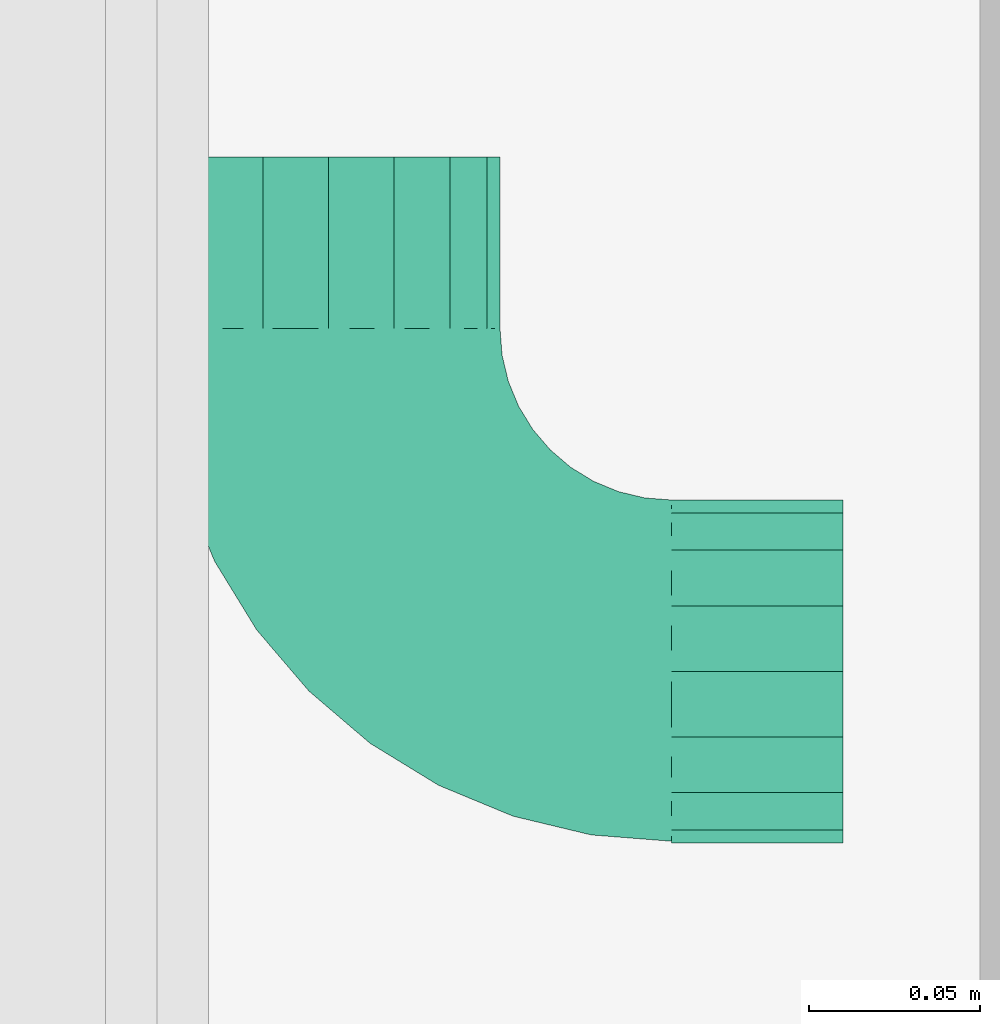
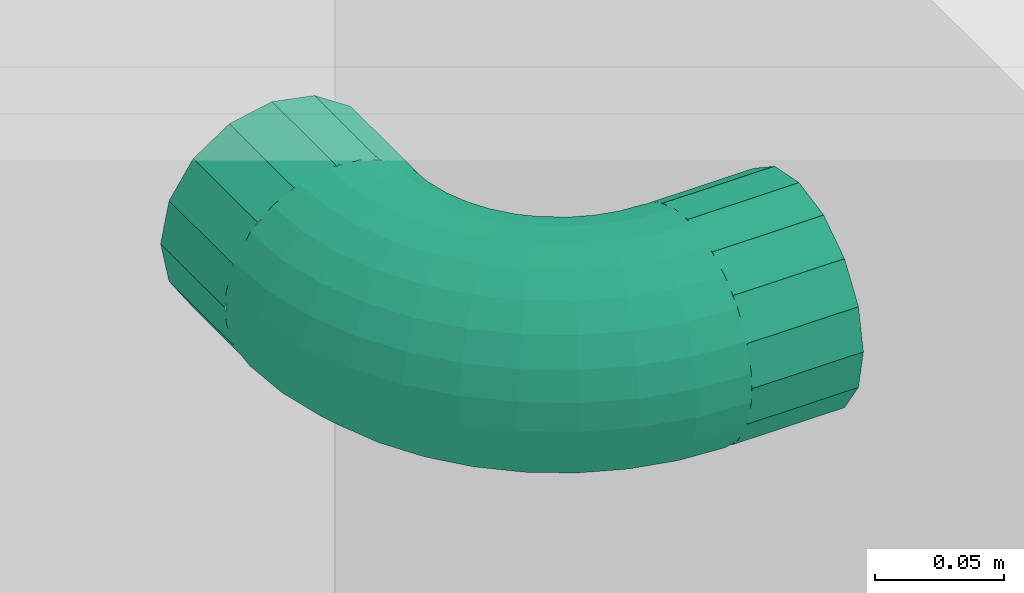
# One storey, part 162 of 169: 1 flow fitting.
"""IFC2X3 building model written with IfcOpenShell, lengths in metres."""

from ifc_helpers import new_model, entity, si_unit, converted_unit, derived_unit, money_unit, direction, frame, origin_with_axes, place, context, subcontext, project, spatial, open_shell, surface_model, material, type_object, element, save


model = new_model("IFC2X3")

# Units and contexts
model_context = context("Model", 3, precision=1e-05, world=origin_with_axes(), true_north=direction((0.0, 1.0)))
body_context = subcontext(model_context, "Body", "Model", "MODEL_VIEW", scale=1.0)
ifc_project = project(units=[si_unit("LENGTHUNIT", "METRE"), si_unit("AREAUNIT", "SQUARE_METRE"), si_unit("VOLUMEUNIT", "CUBIC_METRE"), si_unit("ABSORBEDDOSEUNIT", "GRAY"), si_unit("AMOUNTOFSUBSTANCEUNIT", "MOLE"), si_unit("DOSEEQUIVALENTUNIT", "SIEVERT"), si_unit("ELECTRICCAPACITANCEUNIT", "FARAD"), si_unit("ELECTRICCHARGEUNIT", "COULOMB"), si_unit("ELECTRICCONDUCTANCEUNIT", "SIEMENS"), si_unit("ELECTRICCURRENTUNIT", "AMPERE"), si_unit("ELECTRICRESISTANCEUNIT", "OHM"), si_unit("ELECTRICVOLTAGEUNIT", "VOLT"), si_unit("ENERGYUNIT", "JOULE"), si_unit("FORCEUNIT", "NEWTON"), si_unit("FREQUENCYUNIT", "HERTZ"), si_unit("ILLUMINANCEUNIT", "LUX"), si_unit("INDUCTANCEUNIT", "HENRY"), si_unit("LUMINOUSFLUXUNIT", "LUMEN"), si_unit("LUMINOUSINTENSITYUNIT", "CANDELA"), si_unit("MAGNETICFLUXDENSITYUNIT", "TESLA"), si_unit("MAGNETICFLUXUNIT", "WEBER"), si_unit("MASSUNIT", "GRAM"), converted_unit("PLANEANGLEUNIT", "degree", entity("IfcReal", 0.0174532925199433), si_unit("PLANEANGLEUNIT", "RADIAN"), dimensions=[0, 0, 0, 0, 0, 0, 0]), si_unit("POWERUNIT", "WATT"), si_unit("PRESSUREUNIT", "PASCAL"), si_unit("RADIOACTIVITYUNIT", "BECQUEREL"), si_unit("SOLIDANGLEUNIT", "STERADIAN"), si_unit("THERMODYNAMICTEMPERATUREUNIT", "KELVIN"), si_unit("TIMEUNIT", "SECOND"), derived_unit("ACCELERATIONUNIT", [(si_unit("LENGTHUNIT", "METRE"), 1), (si_unit("TIMEUNIT", "SECOND"), -2)]), derived_unit("ANGULARVELOCITYUNIT", [(converted_unit("PLANEANGLEUNIT", "degree", entity("IfcReal", 0.0174532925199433), si_unit("PLANEANGLEUNIT", "RADIAN"), dimensions=[0, 0, 0, 0, 0, 0, 0]), 1), (si_unit("TIMEUNIT", "SECOND"), -1)]), derived_unit("CURVATUREUNIT", [(converted_unit("PLANEANGLEUNIT", "degree", entity("IfcReal", 0.0174532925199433), si_unit("PLANEANGLEUNIT", "RADIAN"), dimensions=[0, 0, 0, 0, 0, 0, 0]), 1), (si_unit("LENGTHUNIT", "METRE"), -1)]), derived_unit("DYNAMICVISCOSITYUNIT", [(si_unit("PRESSUREUNIT", "PASCAL"), 1), (si_unit("TIMEUNIT", "SECOND"), 1)]), derived_unit("HEATFLUXDENSITYUNIT", [(si_unit("POWERUNIT", "WATT"), 1), (si_unit("LENGTHUNIT", "METRE"), -2)]), derived_unit("HEATINGVALUEUNIT", [(si_unit("ENERGYUNIT", "JOULE"), 1), (si_unit("MASSUNIT", "GRAM"), -1)]), derived_unit("INTEGERCOUNTRATEUNIT", [(si_unit("TIMEUNIT", "SECOND"), -1)]), derived_unit("IONCONCENTRATIONUNIT", [(si_unit("MASSUNIT", "GRAM"), 1), (si_unit("VOLUMEUNIT", "CUBIC_METRE"), -1)]), derived_unit("ISOTHERMALMOISTURECAPACITYUNIT", [(si_unit("VOLUMEUNIT", "CUBIC_METRE"), 1), (si_unit("MASSUNIT", "GRAM"), -1)]), derived_unit("KINEMATICVISCOSITYUNIT", [(si_unit("AREAUNIT", "SQUARE_METRE"), 1), (si_unit("TIMEUNIT", "SECOND"), -1)]), derived_unit("LINEARFORCEUNIT", [(si_unit("FORCEUNIT", "NEWTON"), 1), (si_unit("LENGTHUNIT", "METRE"), -1)]), derived_unit("LINEARMOMENTUNIT", [(si_unit("FORCEUNIT", "NEWTON"), 1), (si_unit("LENGTHUNIT", "METRE"), -1)]), derived_unit("LINEARSTIFFNESSUNIT", [(si_unit("FORCEUNIT", "NEWTON"), 1), (si_unit("LENGTHUNIT", "METRE"), -1)]), derived_unit("LINEARVELOCITYUNIT", [(si_unit("LENGTHUNIT", "METRE"), 1), (si_unit("TIMEUNIT", "SECOND"), -1)]), derived_unit("LUMINOUSINTENSITYDISTRIBUTIONUNIT", [(si_unit("LUMINOUSINTENSITYUNIT", "CANDELA"), 1), (si_unit("LUMINOUSFLUXUNIT", "LUMEN"), -1)]), derived_unit("MASSDENSITYUNIT", [(si_unit("MASSUNIT", "GRAM"), 1), (si_unit("VOLUMEUNIT", "CUBIC_METRE"), -1)]), derived_unit("MASSFLOWRATEUNIT", [(si_unit("MASSUNIT", "GRAM"), 1), (si_unit("TIMEUNIT", "SECOND"), -1)]), derived_unit("MASSPERLENGTHUNIT", [(si_unit("MASSUNIT", "GRAM"), 1), (si_unit("LENGTHUNIT", "METRE"), -1)]), derived_unit("MODULUSOFELASTICITYUNIT", [(si_unit("FORCEUNIT", "NEWTON"), 1), (si_unit("AREAUNIT", "SQUARE_METRE"), -1)]), derived_unit("MODULUSOFLINEARSUBGRADEREACTIONUNIT", [(si_unit("FORCEUNIT", "NEWTON"), 1), (si_unit("LENGTHUNIT", "METRE"), -2)]), derived_unit("MODULUSOFROTATIONALSUBGRADEREACTIONUNIT", [(si_unit("FORCEUNIT", "NEWTON"), 1), (si_unit("LENGTHUNIT", "METRE"), 1)]), derived_unit("MODULUSOFSUBGRADEREACTIONUNIT", [(si_unit("FORCEUNIT", "NEWTON"), 1), (si_unit("VOLUMEUNIT", "CUBIC_METRE"), -1)]), derived_unit("MOISTUREDIFFUSIVITYUNIT", [(si_unit("VOLUMEUNIT", "CUBIC_METRE"), 1), (si_unit("TIMEUNIT", "SECOND"), -1)]), derived_unit("MOLECULARWEIGHTUNIT", [(si_unit("MASSUNIT", "GRAM"), 1), (si_unit("AMOUNTOFSUBSTANCEUNIT", "MOLE"), -1)]), derived_unit("PLANARFORCEUNIT", [(si_unit("FORCEUNIT", "NEWTON"), 1), (si_unit("LENGTHUNIT", "METRE"), -2)]), derived_unit("ROTATIONALFREQUENCYUNIT", [(si_unit("TIMEUNIT", "SECOND"), -1)]), derived_unit("ROTATIONALMASSUNIT", [(si_unit("MASSUNIT", "GRAM"), 1), (si_unit("LENGTHUNIT", "METRE"), 2)]), derived_unit("ROTATIONALSTIFFNESSUNIT", [(si_unit("FORCEUNIT", "NEWTON"), 1), (si_unit("LENGTHUNIT", "METRE"), 1), (converted_unit("PLANEANGLEUNIT", "degree", entity("IfcReal", 0.0174532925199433), si_unit("PLANEANGLEUNIT", "RADIAN"), dimensions=[0, 0, 0, 0, 0, 0, 0]), -1)]), derived_unit("SECTIONAREAINTEGRALUNIT", [(si_unit("LENGTHUNIT", "METRE"), 5)]), derived_unit("SECTIONMODULUSUNIT", [(si_unit("LENGTHUNIT", "METRE"), 3)]), derived_unit("SHEARMODULUSUNIT", [(si_unit("FORCEUNIT", "NEWTON"), 1), (si_unit("AREAUNIT", "SQUARE_METRE"), -1)]), derived_unit("SOUNDPOWERUNIT", [(si_unit("ENERGYUNIT", "JOULE"), 1), (si_unit("TIMEUNIT", "SECOND"), -1)]), derived_unit("SPECIFICHEATCAPACITYUNIT", [(si_unit("FORCEUNIT", "NEWTON"), 1), (si_unit("MASSUNIT", "GRAM"), -1), (si_unit("THERMODYNAMICTEMPERATUREUNIT", "KELVIN"), -1)]), derived_unit("TEMPERATUREGRADIENTUNIT", [(si_unit("THERMODYNAMICTEMPERATUREUNIT", "KELVIN"), 1), (si_unit("LENGTHUNIT", "METRE"), -1)]), derived_unit("THERMALADMITTANCEUNIT", [(si_unit("POWERUNIT", "WATT"), 1), (si_unit("AREAUNIT", "SQUARE_METRE"), -1), (si_unit("THERMODYNAMICTEMPERATUREUNIT", "KELVIN"), -1)]), derived_unit("THERMALCONDUCTANCEUNIT", [(si_unit("POWERUNIT", "WATT"), 1), (si_unit("LENGTHUNIT", "METRE"), -1), (si_unit("THERMODYNAMICTEMPERATUREUNIT", "KELVIN"), -1)]), derived_unit("THERMALEXPANSIONCOEFFICIENTUNIT", [(si_unit("THERMODYNAMICTEMPERATUREUNIT", "KELVIN"), -1)]), derived_unit("THERMALRESISTANCEUNIT", [(si_unit("AREAUNIT", "SQUARE_METRE"), 1), (si_unit("POWERUNIT", "WATT"), -1)]), derived_unit("THERMALTRANSMITTANCEUNIT", [(si_unit("POWERUNIT", "WATT"), 1), (si_unit("AREAUNIT", "SQUARE_METRE"), -1), (si_unit("THERMODYNAMICTEMPERATUREUNIT", "KELVIN"), -1)]), derived_unit("TORQUEUNIT", [(si_unit("FORCEUNIT", "NEWTON"), 1), (si_unit("LENGTHUNIT", "METRE"), 1)]), derived_unit("VAPORPERMEABILITYUNIT", [(si_unit("MASSUNIT", "GRAM"), 1), (si_unit("TIMEUNIT", "SECOND"), -1)]), derived_unit("VOLUMETRICFLOWRATEUNIT", [(si_unit("VOLUMEUNIT", "CUBIC_METRE"), 1), (si_unit("TIMEUNIT", "SECOND"), -1)]), derived_unit("WARPINGCONSTANTUNIT", [(si_unit("LENGTHUNIT", "METRE"), 6)]), derived_unit("WARPINGMOMENTUNIT", [(si_unit("FORCEUNIT", "NEWTON"), 1), (si_unit("LENGTHUNIT", "METRE"), 2)]), money_unit("GBP")], contexts=[model_context])

# Site, building, storey, space
site_placement = place(None, origin_with_axes())
site = spatial("IfcSite", under=ifc_project, at=site_placement, Name="Site", CompositionType="ELEMENT")
building_placement = place(site_placement, origin_with_axes())
building = spatial("IfcBuilding", under=site, at=building_placement, Name="Building01", CompositionType="ELEMENT")
storey_placement = place(building_placement, frame((0.0, 0.0, 5.15), z_axis=(0.0, 0.0, 1.0), x_axis=(1.0, 0.0, 0.0)))
storey = spatial("IfcBuildingStorey", under=building, at=storey_placement, Name="1F", CompositionType="ELEMENT", Elevation=5.15)
space_placement = place(storey_placement, frame((18.239976, 7.549915, 9.86), z_axis=(0.0, 0.0, 1.0), x_axis=(0.0, 1.0, 0.0)))
space = spatial("IfcSpace", under=storey, at=space_placement, Name="corridor (protected)", CompositionType="ELEMENT", InteriorOrExteriorSpace="NOTDEFINED")

# Flow fitting
ifc_material = material(Name="M_BSUK_Ventilation")
duct_fitting_type = type_object("IfcDuctFittingType", Name="M-Roundelbow-DefaultRound", PredefinedType="BEND")
placement = place(building_placement, origin_with_axes())
flow_fitting_placement = place(placement, frame((18.15, 8.069939, 17.28), z_axis=(0.0, -1.0, 0.0), x_axis=(-1.0, 0.0, 0.0)))
element("IfcFlowFitting", 1, at=flow_fitting_placement, inside=space, type_object=duct_fitting_type, material=ifc_material, Name="M-Roundelbow-DefaultRound", ObjectType="M-Roundelbow-DefaultRound", context=body_context, shape_type="SurfaceModel", body=[
    surface_model("IfcShellBasedSurfaceModel", [(0.008112, -0.01349, -0.048784), (0.0, -0.01349, -0.048146), (0.0, 0.0, -0.05), (0.007822, 0.0, -0.050616), (0.016024, -0.01349, -0.050684), (0.015451, 0.0, -0.052447), (0.023541, -0.01349, -0.053798), (0.0227, 0.0, -0.05545), (0.030479, -0.01349, -0.058049), (0.029389, 0.0, -0.059549), (0.036666, -0.01349, -0.063334), (0.035355, 0.0, -0.064645), (0.041951, -0.01349, -0.069521), (0.040451, 0.0, -0.070611), (0.046202, -0.01349, -0.076459), (0.04455, 0.0, -0.0773), (0.049316, -0.01349, -0.083976), (0.047553, 0.0, -0.084549), (0.051216, -0.01349, -0.091888), (0.049384, 0.0, -0.092178), (0.051854, -0.01349, -0.1), (0.05, 0.0, -0.1), (0.00896, -0.025979, -0.043426), (0.0, -0.025979, -0.042721), (0.0177, -0.025979, -0.045524), (0.026004, -0.025979, -0.048964), (0.033668, -0.025979, -0.05366), (0.040502, -0.025979, -0.059498), (0.04634, -0.025979, -0.066332), (0.051036, -0.025979, -0.073996), (0.054476, -0.025979, -0.0823), (0.056574, -0.025979, -0.09104), (0.057279, -0.025979, -0.1), (0.010305, -0.036542, -0.034939), (0.0, -0.036542, -0.034128), (0.020356, -0.036542, -0.037352), (0.029905, -0.036542, -0.041307), (0.038719, -0.036542, -0.046708), (0.046579, -0.036542, -0.053421), (0.053292, -0.036542, -0.061281), (0.058693, -0.036542, -0.070095), (0.062648, -0.036542, -0.079644), (0.065061, -0.036542, -0.089695), (0.065872, -0.036542, -0.1), (0.012045, -0.044394, -0.023951), (0.0, -0.044394, -0.023003), (0.023793, -0.044394, -0.026772), (0.034956, -0.044394, -0.031395), (0.045258, -0.044394, -0.037708), (0.054445, -0.044394, -0.045555), (0.062292, -0.044394, -0.054742), (0.068605, -0.044394, -0.065044), (0.073228, -0.044394, -0.076207), (0.076049, -0.044394, -0.087955), (0.076997, -0.044394, -0.1), (0.014052, -0.048954, -0.011279), (0.0, -0.048954, -0.010173), (0.027758, -0.048954, -0.014569), (0.040781, -0.048954, -0.019963), (0.052799, -0.048954, -0.027328), (0.063517, -0.048954, -0.036483), (0.072672, -0.048954, -0.047201), (0.080037, -0.048954, -0.059219), (0.085431, -0.048954, -0.072242), (0.088721, -0.048954, -0.085948), (0.089827, -0.048954, -0.1), (0.016177, -0.049883, 0.002139), (0.0, -0.049883, 0.003412), (0.031956, -0.049883, -0.001649), (0.046948, -0.049883, -0.007859), (0.060784, -0.049883, -0.016338), (0.073123, -0.049883, -0.026877), (0.083662, -0.049883, -0.039216), (0.092141, -0.049883, -0.053052), (0.098351, -0.049883, -0.068044), (0.102139, -0.049883, -0.083823), (0.103412, -0.049883, -0.1), (0.018263, -0.047113, 0.015307), (0.0, -0.047113, 0.016744), (0.036076, -0.047113, 0.01103), (0.053001, -0.047113, 0.00402), (0.06862, -0.047113, -0.005552), (0.08255, -0.047113, -0.01745), (0.094448, -0.047113, -0.03138), (0.10402, -0.047113, -0.046999), (0.11103, -0.047113, -0.063924), (0.115307, -0.047113, -0.081737), (0.116744, -0.047113, -0.1), (0.020154, -0.040848, 0.027248), (0.0, -0.040848, 0.028834), (0.039812, -0.040848, 0.022528), (0.058489, -0.040848, 0.014792), (0.075727, -0.040848, 0.004229), (0.091099, -0.040848, -0.008901), (0.104229, -0.040848, -0.024273), (0.114792, -0.040848, -0.041511), (0.122528, -0.040848, -0.060188), (0.127248, -0.040848, -0.079846), (0.128834, -0.040848, -0.1), (0.021711, -0.031554, 0.037077), (0.0, -0.031554, 0.038786), (0.042887, -0.031554, 0.031993), (0.063007, -0.031554, 0.023659), (0.081576, -0.031554, 0.01228), (0.098136, -0.031554, -0.001864), (0.11228, -0.031554, -0.018424), (0.123659, -0.031554, -0.036993), (0.131993, -0.031554, -0.057113), (0.137077, -0.031554, -0.078289), (0.138786, -0.031554, -0.1), (0.022818, -0.01992, 0.044065), (0.0, -0.01992, 0.045861), (0.045073, -0.01992, 0.038722), (0.066219, -0.01992, 0.029963), (0.085735, -0.01992, 0.018004), (0.103139, -0.01992, 0.003139), (0.118004, -0.01992, -0.014265), (0.129963, -0.01992, -0.033781), (0.138722, -0.01992, -0.054927), (0.144065, -0.01992, -0.077182), (0.145861, -0.01992, -0.1), (0.023392, -0.006808, 0.047693), (0.0, -0.006808, 0.049534), (0.046209, -0.006808, 0.042216), (0.067887, -0.006808, 0.033236), (0.087894, -0.006808, 0.020976), (0.105737, -0.006808, 0.005737), (0.120976, -0.006808, -0.012106), (0.133236, -0.006808, -0.032113), (0.142216, -0.006808, -0.053791), (0.147693, -0.006808, -0.076608), (0.149534, -0.006808, -0.1), (0.023392, 0.006808, 0.047693), (0.0, 0.006808, 0.049534), (0.046209, 0.006808, 0.042216), (0.067887, 0.006808, 0.033236), (0.087894, 0.006808, 0.020976), (0.105737, 0.006808, 0.005737), (0.120976, 0.006808, -0.012106), (0.133236, 0.006808, -0.032113), (0.142216, 0.006808, -0.053791), (0.147693, 0.006808, -0.076608), (0.149534, 0.006808, -0.1), (0.022818, 0.01992, 0.044065), (0.0, 0.01992, 0.045861), (0.045073, 0.01992, 0.038722), (0.066219, 0.01992, 0.029963), (0.085735, 0.01992, 0.018004), (0.103139, 0.01992, 0.003139), (0.118004, 0.01992, -0.014265), (0.129963, 0.01992, -0.033781), (0.138722, 0.01992, -0.054927), (0.144065, 0.01992, -0.077182), (0.145861, 0.01992, -0.1), (0.021711, 0.031554, 0.037077), (0.0, 0.031554, 0.038786), (0.042887, 0.031554, 0.031993), (0.063007, 0.031554, 0.023659), (0.081576, 0.031554, 0.01228), (0.098136, 0.031554, -0.001864), (0.11228, 0.031554, -0.018424), (0.123659, 0.031554, -0.036993), (0.131993, 0.031554, -0.057113), (0.137077, 0.031554, -0.078289), (0.138786, 0.031554, -0.1), (0.020154, 0.040848, 0.027248), (0.0, 0.040848, 0.028834), (0.039812, 0.040848, 0.022528), (0.058489, 0.040848, 0.014792), (0.075727, 0.040848, 0.004229), (0.091099, 0.040848, -0.008901), (0.104229, 0.040848, -0.024273), (0.114792, 0.040848, -0.041511), (0.122528, 0.040848, -0.060188), (0.127248, 0.040848, -0.079846), (0.128834, 0.040848, -0.1), (0.018263, 0.047113, 0.015307), (0.0, 0.047113, 0.016744), (0.036076, 0.047113, 0.01103), (0.053001, 0.047113, 0.00402), (0.06862, 0.047113, -0.005552), (0.08255, 0.047113, -0.01745), (0.094448, 0.047113, -0.03138), (0.10402, 0.047113, -0.046999), (0.11103, 0.047113, -0.063924), (0.115307, 0.047113, -0.081737), (0.116744, 0.047113, -0.1), (0.016177, 0.049883, 0.002139), (0.0, 0.049883, 0.003412), (0.031956, 0.049883, -0.001649), (0.046948, 0.049883, -0.007859), (0.060784, 0.049883, -0.016338), (0.073123, 0.049883, -0.026877), (0.083662, 0.049883, -0.039216), (0.092141, 0.049883, -0.053052), (0.098351, 0.049883, -0.068044), (0.102139, 0.049883, -0.083823), (0.103412, 0.049883, -0.1), (0.014052, 0.048954, -0.011279), (0.0, 0.048954, -0.010173), (0.027758, 0.048954, -0.014569), (0.040781, 0.048954, -0.019963), (0.052799, 0.048954, -0.027328), (0.063517, 0.048954, -0.036483), (0.072672, 0.048954, -0.047201), (0.080037, 0.048954, -0.059219), (0.085431, 0.048954, -0.072242), (0.088721, 0.048954, -0.085948), (0.089827, 0.048954, -0.1), (0.012045, 0.044394, -0.023951), (0.0, 0.044394, -0.023003), (0.023793, 0.044394, -0.026772), (0.034956, 0.044394, -0.031395), (0.045258, 0.044394, -0.037708), (0.054445, 0.044394, -0.045555), (0.062292, 0.044394, -0.054742), (0.068605, 0.044394, -0.065044), (0.073228, 0.044394, -0.076207), (0.076049, 0.044394, -0.087955), (0.076997, 0.044394, -0.1), (0.010305, 0.036542, -0.034939), (0.0, 0.036542, -0.034128), (0.020356, 0.036542, -0.037352), (0.029905, 0.036542, -0.041307), (0.038719, 0.036542, -0.046708), (0.046579, 0.036542, -0.053421), (0.053292, 0.036542, -0.061281), (0.058693, 0.036542, -0.070095), (0.062648, 0.036542, -0.079644), (0.065061, 0.036542, -0.089695), (0.065872, 0.036542, -0.1), (0.00896, 0.025979, -0.043426), (0.0, 0.025979, -0.042721), (0.0177, 0.025979, -0.045524), (0.026004, 0.025979, -0.048964), (0.033668, 0.025979, -0.05366), (0.040502, 0.025979, -0.059498), (0.04634, 0.025979, -0.066332), (0.051036, 0.025979, -0.073996), (0.054476, 0.025979, -0.0823), (0.056574, 0.025979, -0.09104), (0.057279, 0.025979, -0.1), (0.008112, 0.01349, -0.048784), (0.0, 0.01349, -0.048146), (0.016024, 0.01349, -0.050684), (0.023541, 0.01349, -0.053798), (0.030479, 0.01349, -0.058049), (0.036666, 0.01349, -0.063334), (0.041951, 0.01349, -0.069521), (0.046202, 0.01349, -0.076459), (0.049316, 0.01349, -0.083976), (0.051216, 0.01349, -0.091888), (0.051854, 0.01349, -0.1), (-0.05, 0.0, -0.05), (0.0, -0.019134, -0.046194), (-0.05, -0.019134, -0.046194), (0.0, -0.035355, -0.035355), (-0.05, -0.035355, -0.035355), (0.0, -0.046194, -0.019134), (-0.05, -0.046194, -0.019134), (0.0, -0.05, 0.0), (-0.05, -0.05, 0.0), (0.0, -0.046194, 0.019134), (-0.05, -0.046194, 0.019134), (0.0, -0.035355, 0.035355), (-0.05, -0.035355, 0.035355), (0.0, -0.019134, 0.046194), (-0.05, -0.019134, 0.046194), (0.0, 0.0, 0.05), (-0.05, 0.0, 0.05), (0.0, 0.019134, 0.046194), (-0.05, 0.019134, 0.046194), (0.0, 0.035355, 0.035355), (-0.05, 0.035355, 0.035355), (0.0, 0.046194, 0.019134), (-0.05, 0.046194, 0.019134), (0.0, 0.05, 0.0), (-0.05, 0.05, 0.0), (0.0, 0.046194, -0.019134), (-0.05, 0.046194, -0.019134), (0.0, 0.035355, -0.035355), (-0.05, 0.035355, -0.035355), (0.0, 0.019134, -0.046194), (-0.05, 0.019134, -0.046194), (0.05, 0.0, -0.15), (0.053806, 0.019134, -0.1), (0.053806, 0.019134, -0.15), (0.064645, 0.035355, -0.1), (0.064645, 0.035355, -0.15), (0.080866, 0.046194, -0.1), (0.080866, 0.046194, -0.15), (0.1, 0.05, -0.1), (0.1, 0.05, -0.15), (0.119134, 0.046194, -0.1), (0.119134, 0.046194, -0.15), (0.135355, 0.035355, -0.1), (0.135355, 0.035355, -0.15), (0.146194, 0.019134, -0.1), (0.146194, 0.019134, -0.15), (0.15, 0.0, -0.1), (0.15, 0.0, -0.15), (0.146194, -0.019134, -0.1), (0.146194, -0.019134, -0.15), (0.135355, -0.035355, -0.1), (0.135355, -0.035355, -0.15), (0.119134, -0.046194, -0.1), (0.119134, -0.046194, -0.15), (0.1, -0.05, -0.1), (0.1, -0.05, -0.15), (0.080866, -0.046194, -0.1), (0.080866, -0.046194, -0.15), (0.064645, -0.035355, -0.1), (0.064645, -0.035355, -0.15), (0.053806, -0.019134, -0.1), (0.053806, -0.019134, -0.15)], [open_shell([[[0, 1, 2, 3]], [[4, 0, 3, 5]], [[6, 4, 5, 7]], [[8, 6, 7, 9]], [[10, 8, 9, 11]], [[12, 10, 11, 13]], [[14, 12, 13, 15]], [[16, 14, 15, 17]], [[18, 16, 17, 19]], [[20, 18, 19, 21]], [[22, 23, 1, 0]], [[24, 22, 0, 4]], [[25, 24, 4, 6]], [[26, 25, 6, 8]], [[27, 26, 8, 10]], [[28, 27, 10, 12]], [[29, 28, 12, 14]], [[30, 29, 14, 16]], [[31, 30, 16, 18]], [[32, 31, 18, 20]], [[33, 34, 23, 22]], [[35, 33, 22, 24]], [[36, 35, 24, 25]], [[37, 36, 25, 26]], [[38, 37, 26, 27]], [[39, 38, 27, 28]], [[40, 39, 28, 29]], [[41, 40, 29, 30]], [[42, 41, 30, 31]], [[43, 42, 31, 32]], [[44, 45, 34, 33]], [[46, 44, 33, 35]], [[47, 46, 35, 36]], [[48, 47, 36, 37]], [[49, 48, 37, 38]], [[50, 49, 38, 39]], [[51, 50, 39, 40]], [[52, 51, 40, 41]], [[53, 52, 41, 42]], [[54, 53, 42, 43]], [[55, 56, 45, 44]], [[57, 55, 44, 46]], [[58, 57, 46, 47]], [[59, 58, 47, 48]], [[60, 59, 48, 49]], [[61, 60, 49, 50]], [[62, 61, 50, 51]], [[63, 62, 51, 52]], [[64, 63, 52, 53]], [[65, 64, 53, 54]], [[66, 67, 56, 55]], [[68, 66, 55, 57]], [[69, 68, 57, 58]], [[70, 69, 58, 59]], [[71, 70, 59, 60]], [[72, 71, 60, 61]], [[73, 72, 61, 62]], [[74, 73, 62, 63]], [[75, 74, 63, 64]], [[76, 75, 64, 65]], [[77, 78, 67, 66]], [[79, 77, 66, 68]], [[80, 79, 68, 69]], [[81, 80, 69, 70]], [[82, 81, 70, 71]], [[83, 82, 71, 72]], [[84, 83, 72, 73]], [[85, 84, 73, 74]], [[86, 85, 74, 75]], [[87, 86, 75, 76]], [[88, 89, 78, 77]], [[90, 88, 77, 79]], [[91, 90, 79, 80]], [[92, 91, 80, 81]], [[93, 92, 81, 82]], [[94, 93, 82, 83]], [[95, 94, 83, 84]], [[96, 95, 84, 85]], [[97, 96, 85, 86]], [[98, 97, 86, 87]], [[99, 100, 89, 88]], [[101, 99, 88, 90]], [[102, 101, 90, 91]], [[103, 102, 91, 92]], [[104, 103, 92, 93]], [[105, 104, 93, 94]], [[106, 105, 94, 95]], [[107, 106, 95, 96]], [[108, 107, 96, 97]], [[109, 108, 97, 98]], [[110, 111, 100, 99]], [[112, 110, 99, 101]], [[113, 112, 101, 102]], [[114, 113, 102, 103]], [[115, 114, 103, 104]], [[116, 115, 104, 105]], [[117, 116, 105, 106]], [[118, 117, 106, 107]], [[119, 118, 107, 108]], [[120, 119, 108, 109]], [[121, 122, 111, 110]], [[123, 121, 110, 112]], [[124, 123, 112, 113]], [[125, 124, 113, 114]], [[126, 125, 114, 115]], [[127, 126, 115, 116]], [[128, 127, 116, 117]], [[129, 128, 117, 118]], [[130, 129, 118, 119]], [[131, 130, 119, 120]], [[132, 133, 122, 121]], [[134, 132, 121, 123]], [[135, 134, 123, 124]], [[136, 135, 124, 125]], [[137, 136, 125, 126]], [[138, 137, 126, 127]], [[139, 138, 127, 128]], [[140, 139, 128, 129]], [[141, 140, 129, 130]], [[142, 141, 130, 131]], [[143, 144, 133, 132]], [[145, 143, 132, 134]], [[146, 145, 134, 135]], [[147, 146, 135, 136]], [[148, 147, 136, 137]], [[149, 148, 137, 138]], [[150, 149, 138, 139]], [[151, 150, 139, 140]], [[152, 151, 140, 141]], [[153, 152, 141, 142]], [[154, 155, 144, 143]], [[156, 154, 143, 145]], [[157, 156, 145, 146]], [[158, 157, 146, 147]], [[159, 158, 147, 148]], [[160, 159, 148, 149]], [[161, 160, 149, 150]], [[162, 161, 150, 151]], [[163, 162, 151, 152]], [[164, 163, 152, 153]], [[165, 166, 155, 154]], [[167, 165, 154, 156]], [[168, 167, 156, 157]], [[169, 168, 157, 158]], [[170, 169, 158, 159]], [[171, 170, 159, 160]], [[172, 171, 160, 161]], [[173, 172, 161, 162]], [[174, 173, 162, 163]], [[175, 174, 163, 164]], [[176, 177, 166, 165]], [[178, 176, 165, 167]], [[179, 178, 167, 168]], [[180, 179, 168, 169]], [[181, 180, 169, 170]], [[182, 181, 170, 171]], [[183, 182, 171, 172]], [[184, 183, 172, 173]], [[185, 184, 173, 174]], [[186, 185, 174, 175]], [[187, 188, 177, 176]], [[189, 187, 176, 178]], [[190, 189, 178, 179]], [[191, 190, 179, 180]], [[192, 191, 180, 181]], [[193, 192, 181, 182]], [[194, 193, 182, 183]], [[195, 194, 183, 184]], [[196, 195, 184, 185]], [[197, 196, 185, 186]], [[198, 199, 188, 187]], [[200, 198, 187, 189]], [[201, 200, 189, 190]], [[202, 201, 190, 191]], [[203, 202, 191, 192]], [[204, 203, 192, 193]], [[205, 204, 193, 194]], [[206, 205, 194, 195]], [[207, 206, 195, 196]], [[208, 207, 196, 197]], [[209, 210, 199, 198]], [[211, 209, 198, 200]], [[212, 211, 200, 201]], [[213, 212, 201, 202]], [[214, 213, 202, 203]], [[215, 214, 203, 204]], [[216, 215, 204, 205]], [[217, 216, 205, 206]], [[218, 217, 206, 207]], [[219, 218, 207, 208]], [[220, 221, 210, 209]], [[222, 220, 209, 211]], [[223, 222, 211, 212]], [[224, 223, 212, 213]], [[225, 224, 213, 214]], [[226, 225, 214, 215]], [[227, 226, 215, 216]], [[228, 227, 216, 217]], [[229, 228, 217, 218]], [[230, 229, 218, 219]], [[231, 232, 221, 220]], [[233, 231, 220, 222]], [[234, 233, 222, 223]], [[235, 234, 223, 224]], [[236, 235, 224, 225]], [[237, 236, 225, 226]], [[238, 237, 226, 227]], [[239, 238, 227, 228]], [[240, 239, 228, 229]], [[241, 240, 229, 230]], [[242, 243, 232, 231]], [[244, 242, 231, 233]], [[245, 244, 233, 234]], [[246, 245, 234, 235]], [[247, 246, 235, 236]], [[248, 247, 236, 237]], [[249, 248, 237, 238]], [[250, 249, 238, 239]], [[251, 250, 239, 240]], [[252, 251, 240, 241]], [[3, 2, 243, 242]], [[5, 3, 242, 244]], [[7, 5, 244, 245]], [[9, 7, 245, 246]], [[11, 9, 246, 247]], [[13, 11, 247, 248]], [[15, 13, 248, 249]], [[17, 15, 249, 250]], [[19, 17, 250, 251]], [[21, 19, 251, 252]], [[253, 2, 254, 255]], [[255, 254, 256, 257]], [[257, 256, 258, 259]], [[259, 258, 260, 261]], [[261, 260, 262, 263]], [[263, 262, 264, 265]], [[265, 264, 266, 267]], [[267, 266, 268, 269]], [[269, 268, 270, 271]], [[271, 270, 272, 273]], [[273, 272, 274, 275]], [[275, 274, 276, 277]], [[277, 276, 278, 279]], [[279, 278, 280, 281]], [[281, 280, 282, 283]], [[283, 282, 2, 253]], [[284, 21, 285, 286]], [[286, 285, 287, 288]], [[288, 287, 289, 290]], [[290, 289, 291, 292]], [[292, 291, 293, 294]], [[294, 293, 295, 296]], [[296, 295, 297, 298]], [[298, 297, 299, 300]], [[300, 299, 301, 302]], [[302, 301, 303, 304]], [[304, 303, 305, 306]], [[306, 305, 307, 308]], [[308, 307, 309, 310]], [[310, 309, 311, 312]], [[312, 311, 313, 314]], [[314, 313, 21, 284]]])]),
])

save(model, "model.ifc")
